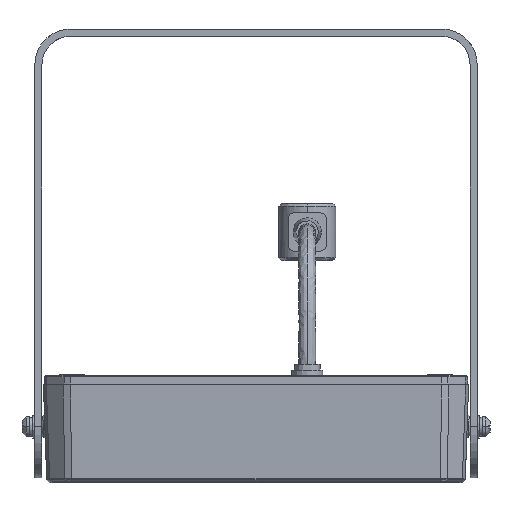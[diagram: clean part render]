
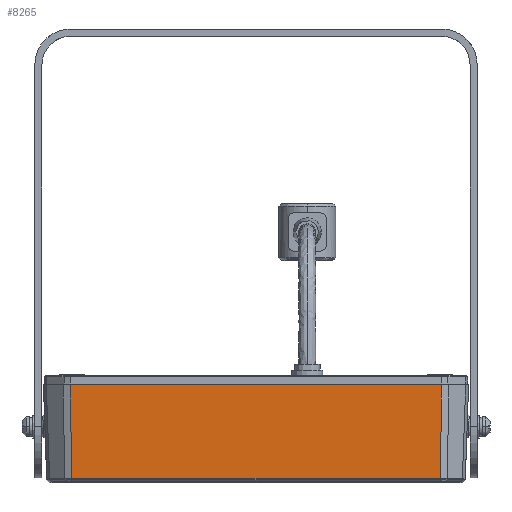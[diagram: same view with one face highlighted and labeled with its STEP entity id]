
A CAD part, top view. The second image highlights one B-rep face of the part: STEP entity #8265.
In plain terms, the highlighted planar face has unit normal (-0.999, 0.035, 0) by its records, which use the part's own axes.
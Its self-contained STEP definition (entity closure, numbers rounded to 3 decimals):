
#8265=ADVANCED_FACE('',(#17907),#155891,.T.);
#17907=FACE_OUTER_BOUND('',#28225,.T.);
#28225=EDGE_LOOP('',(#63508,#63509,#63510,#63511));
#63508=ORIENTED_EDGE('',*,*,#98180,.T.);
#63509=ORIENTED_EDGE('',*,*,#95683,.T.);
#63510=ORIENTED_EDGE('',*,*,#98181,.F.);
#63511=ORIENTED_EDGE('',*,*,#98176,.T.);
#95683=EDGE_CURVE('',#141686,#141685,#118512,.T.);
#98176=EDGE_CURVE('',#143218,#143216,#120413,.T.);
#98180=EDGE_CURVE('',#143216,#141686,#120417,.T.);
#98181=EDGE_CURVE('',#143218,#141685,#120418,.T.);
#118512=B_SPLINE_CURVE_WITH_KNOTS('',1,(#252041,#252042),.UNSPECIFIED.,
 .F.,.F.,(2,2),(-130.294,0.),.UNSPECIFIED.);
#120413=B_SPLINE_CURVE_WITH_KNOTS('',1,(#259672,#259673),.UNSPECIFIED.,
 .F.,.F.,(2,2),(-129.34,0.),.UNSPECIFIED.);
#120417=B_SPLINE_CURVE_WITH_KNOTS('',1,(#259688,#259689),.UNSPECIFIED.,
 .F.,.F.,(2,2),(0.,32.982),.UNSPECIFIED.);
#120418=B_SPLINE_CURVE_WITH_KNOTS('',1,(#259690,#259691),.UNSPECIFIED.,
 .F.,.F.,(2,2),(-32.982,0.),.UNSPECIFIED.);
#141685=VERTEX_POINT('',#249074);
#141686=VERTEX_POINT('',#249075);
#143216=VERTEX_POINT('',#250605);
#143218=VERTEX_POINT('',#250607);
#155891=PLANE('',#167956);
#167956=AXIS2_PLACEMENT_3D('',#247796,#176725,$);
#176725=DIRECTION('',(-0.999,0.035,0.));
#247796=CARTESIAN_POINT('',(74.715,37.744,-78.455));
#249074=CARTESIAN_POINT('',(74.59,34.16,-65.147));
#249075=CARTESIAN_POINT('',(74.59,34.16,65.147));
#250605=CARTESIAN_POINT('',(73.439,1.201,64.67));
#250607=CARTESIAN_POINT('',(73.439,1.201,-64.67));
#252041=CARTESIAN_POINT('',(74.59,34.16,65.147));
#252042=CARTESIAN_POINT('',(74.59,34.16,-65.147));
#259672=CARTESIAN_POINT('',(73.439,1.201,-64.67));
#259673=CARTESIAN_POINT('',(73.439,1.201,64.67));
#259688=CARTESIAN_POINT('',(73.439,1.201,64.67));
#259689=CARTESIAN_POINT('',(74.59,34.16,65.147));
#259690=CARTESIAN_POINT('',(73.439,1.201,-64.67));
#259691=CARTESIAN_POINT('',(74.59,34.16,-65.147));
